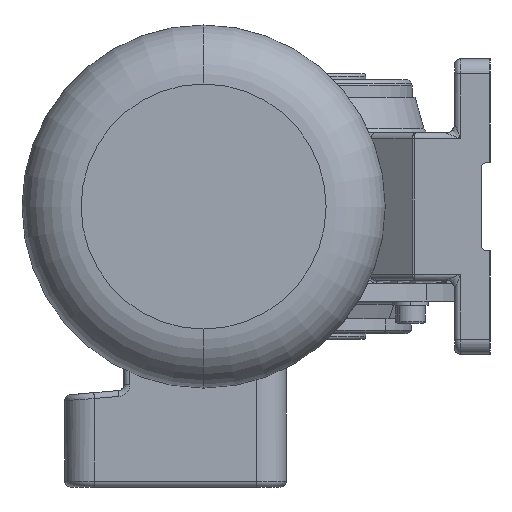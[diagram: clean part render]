
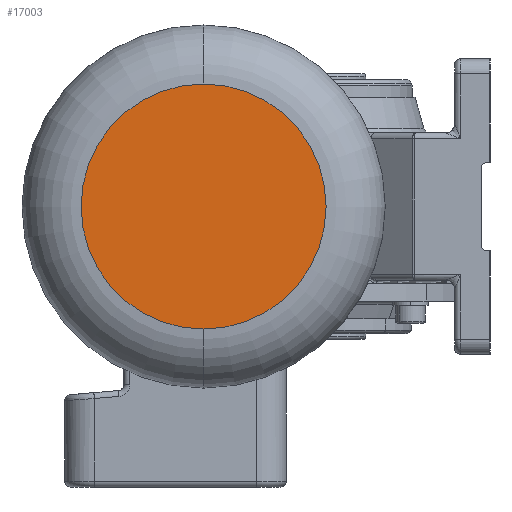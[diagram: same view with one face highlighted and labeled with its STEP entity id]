
A CAD part, left-side view. The second image highlights one B-rep face of the part: STEP entity #17003.
In plain terms, the highlighted planar face has unit normal (-1, 0, 0).
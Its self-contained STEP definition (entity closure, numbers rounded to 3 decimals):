
#898 = ORIENTED_EDGE ( 'NONE', *, *, #15902, .T. ) ;
#1531 = EDGE_LOOP ( 'NONE', ( #898, #15651 ) ) ;
#1535 = AXIS2_PLACEMENT_3D ( 'NONE', #19581, #3451, #23236 ) ;
#1572 = EDGE_CURVE ( 'NONE', #10902, #12251, #19609, .T. ) ;
#3363 = CARTESIAN_POINT ( 'NONE',  ( -409.993, 64.441, -41.5 ) ) ;
#3451 = DIRECTION ( 'NONE',  ( -1., 0., 0. ) ) ;
#4971 = PLANE ( 'NONE',  #12297 ) ;
#5681 = DIRECTION ( 'NONE',  ( 1., 0., 0. ) ) ;
#7341 = DIRECTION ( 'NONE',  ( 0., 0., -1. ) ) ;
#8380 = CARTESIAN_POINT ( 'NONE',  ( -409.993, 64.441, 41.5 ) ) ;
#8395 = FACE_OUTER_BOUND ( 'NONE', #1531, .T. ) ;
#10902 = VERTEX_POINT ( 'NONE', #8380 ) ;
#12251 = VERTEX_POINT ( 'NONE', #3363 ) ;
#12297 = AXIS2_PLACEMENT_3D ( 'NONE', #16365, #5681, #7341 ) ;
#12555 = DIRECTION ( 'NONE',  ( -1., 0., 0. ) ) ;
#14776 = CARTESIAN_POINT ( 'NONE',  ( -409.993, 64.441, 0. ) ) ;
#15257 = AXIS2_PLACEMENT_3D ( 'NONE', #14776, #12555, #16188 ) ;
#15651 = ORIENTED_EDGE ( 'NONE', *, *, #1572, .T. ) ;
#15902 = EDGE_CURVE ( 'NONE', #12251, #10902, #18261, .T. ) ;
#16188 = DIRECTION ( 'NONE',  ( 0., 0., -1. ) ) ;
#16365 = CARTESIAN_POINT ( 'NONE',  ( -409.993, 64.441, 0. ) ) ;
#17003 = ADVANCED_FACE ( 'NONE', ( #8395 ), #4971, .F. ) ;
#18261 = CIRCLE ( 'NONE', #15257, 41.5 ) ;
#19581 = CARTESIAN_POINT ( 'NONE',  ( -409.993, 64.441, 0. ) ) ;
#19609 = CIRCLE ( 'NONE', #1535, 41.5 ) ;
#23236 = DIRECTION ( 'NONE',  ( 0., 0., -1. ) ) ;
